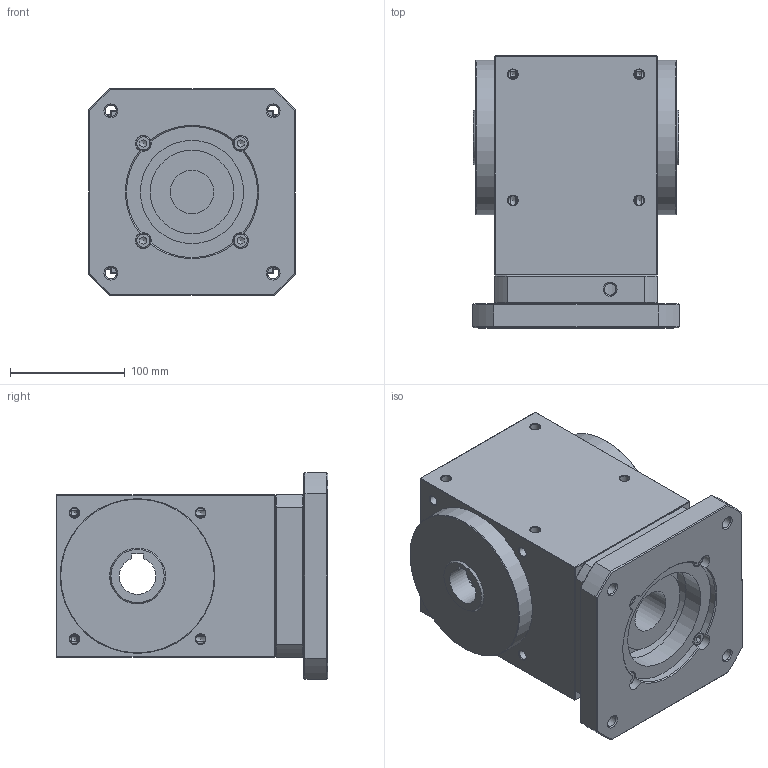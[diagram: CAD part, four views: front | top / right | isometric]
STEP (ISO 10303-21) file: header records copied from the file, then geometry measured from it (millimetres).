
FILE_DESCRIPTION((''),'2;1');
FILE_NAME('D:\유성\SBT 베벨기어박스\최종도면모음\3D\SBT142\SBT142MHS001H.stp','2014-05-20T18:48:32',('nagyu'),(''),'Autodesk Inventor 2013','Autodesk Inventor 2013','');
FILE_SCHEMA(('AUTOMOTIVE_DESIGN { 1 0 10303 214 1 1 1 1 }'));
Length unit declared in the file: millimetre
Products named in the file (1): SBT142MHS001H_Shrinkwrap_1
Bounding box: 180 x 237 x 180 mm (x, y, z)
Volume: 4978036.9 mm3; surface area: 290062.1 mm2
Topology: 1 solids, 15 shells, 436 faces, 1004 edges, 588 vertices
Faces by surface type: cylinder 179, plane 125, cone 124, torus 8
Full cylindrical faces by diameter (mm): 6.647 x4, 8 x4, 8.376 x20, 8.7 x8, 10 x2, 10.106 x5, 13 x4, 14 x8, 38 x1, 73 x1, 90 x1, 100 x2, 120 x2, 135 x2
Entity records: 12089 total; most frequent: CARTESIAN_POINT 3382, DIRECTION 1918, ORIENTED_EDGE 1520, AXIS2_PLACEMENT_3D 866, EDGE_CURVE 760, EDGE_LOOP 618, VERTEX_POINT 488, FACE_OUTER_BOUND 436
